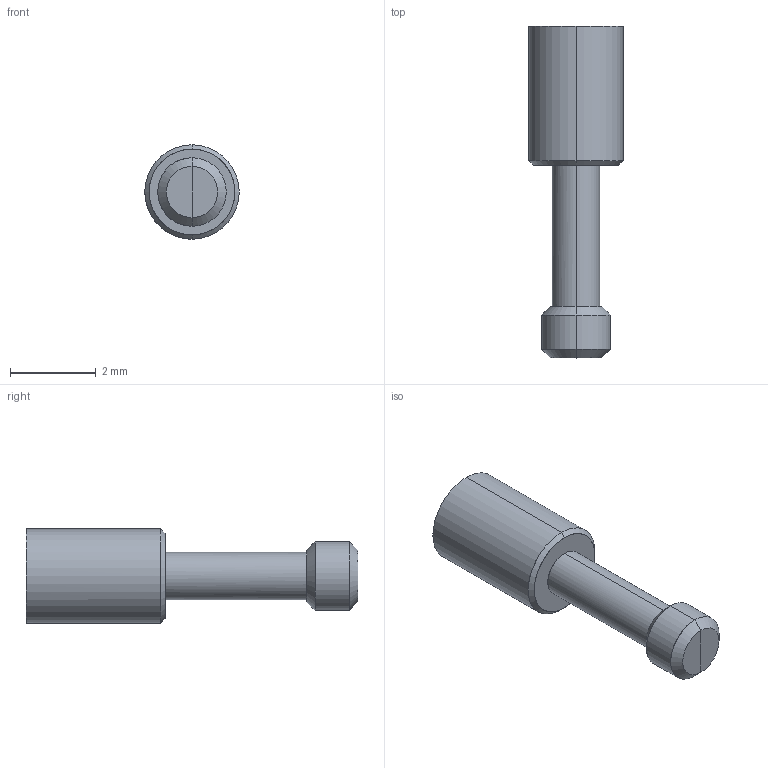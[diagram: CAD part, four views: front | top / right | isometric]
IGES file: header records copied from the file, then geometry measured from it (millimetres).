
Start section: START RECORD GO HERE.
Global section: file name: ia227520.igs; native system: DASSAULT SYSTEMES CATIA V5 R20 - www.3ds.com; preprocessor: CATIA Version 5 Release 20 ; author: Utente; organization: NB04-ASUS; date: 20201108.074358; units: millimetre
Bounding box: 2.2 x 7.75 x 2.2 mm (x, y, z)
Surface area: 50.1 mm2 (no closed solid volume)
Topology: 0 solids, 0 shells, 54 faces, 264 edges, 262 vertices
Faces by surface type: revolution 32, plane 22
